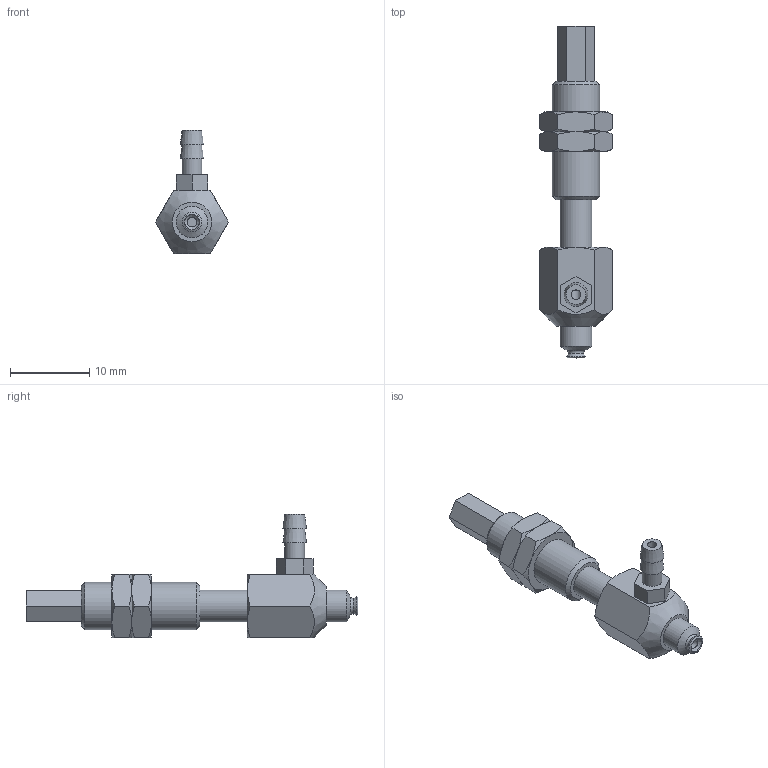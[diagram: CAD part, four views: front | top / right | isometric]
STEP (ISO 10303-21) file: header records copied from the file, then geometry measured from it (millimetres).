
FILE_DESCRIPTION(('STEP AP203'),'1');
FILE_NAME('-T.stp','2025-04-09T05:14:23',(' '),(' '),'Spatial InterOp 3D',' ',' ');
FILE_SCHEMA(('CONFIG_CONTROL_DESIGN'));
Length unit declared in the file: millimetre
Products named in the file (7): BNABPFYS-2A-6-※-T; CONNECTOR-2A-6; Nut-2A-6-s; NAPFTS-2A-6-FBODY; NAPFTS-2A-6-MBODY; BPFG-2A-※; T (2)
Assembly tree (7 placements, depth 2):
  BNABPFYS-2A-6-※-T
    CONNECTOR-2A-6
    Nut-2A-6-s  x2
    NAPFTS-2A-6-FBODY
    NAPFTS-2A-6-MBODY
    BPFG-2A-※
    T (2)
Bounding box: 9.24 x 42 x 15.6 mm (x, y, z)
Volume: 1321.4 mm3; surface area: 2052.8 mm2
Topology: 7 solids, 7 shells, 144 faces, 304 edges, 184 vertices
Faces by surface type: plane 68, cone 50, cylinder 18, torus 7, bspline 1
Full cylindrical faces by diameter (mm): 1.2 x3, 2 x2, 2.459 x2, 2.5 x1, 3 x4, 4 x3, 5.188 x2, 6 x1
Entity records: 3557 total; most frequent: CARTESIAN_POINT 830, DIRECTION 500, ORIENTED_EDGE 414, AXIS2_PLACEMENT_3D 213, EDGE_CURVE 207, EDGE_LOOP 184, VERTEX_POINT 149, FACE_OUTER_BOUND 146
